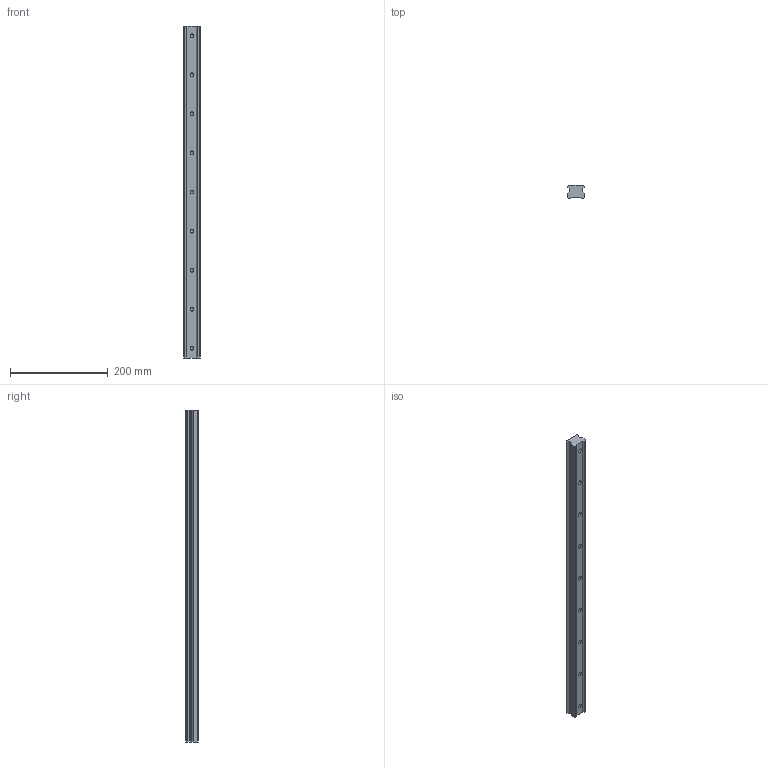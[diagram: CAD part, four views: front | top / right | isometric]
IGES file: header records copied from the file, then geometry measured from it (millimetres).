
Start section: SolidWorks IGES file using analytic representation for surfaces
Global section: file name: C:\Users\IanO\Desktop\Temp File\GENERAL\L1016_v2\L1016.RF35_v2\L1016.RF35_v2_20190612_IGES\L1016.RF35-0680.igs; native system: SolidWorks 2017; preprocessor: SolidWorks 2017; author: IanO; date: 190613.172550; units: millimetre
Bounding box: 34 x 26 x 680 mm (x, y, z)
Surface area: 89963 mm2 (no closed solid volume)
Topology: 0 solids, 0 shells, 89 faces, 1248 edges, 1230 vertices
Faces by surface type: revolution 58, bspline 31
